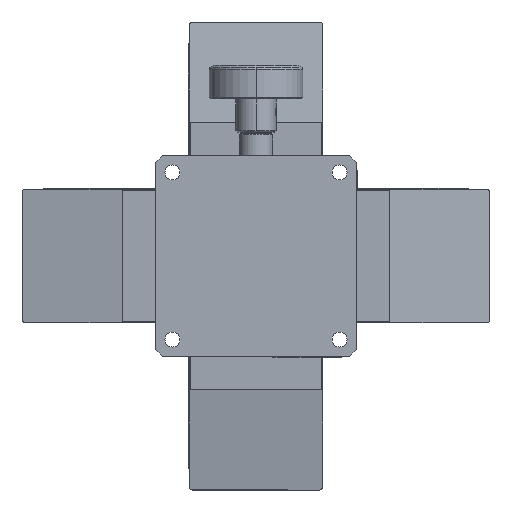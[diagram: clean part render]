
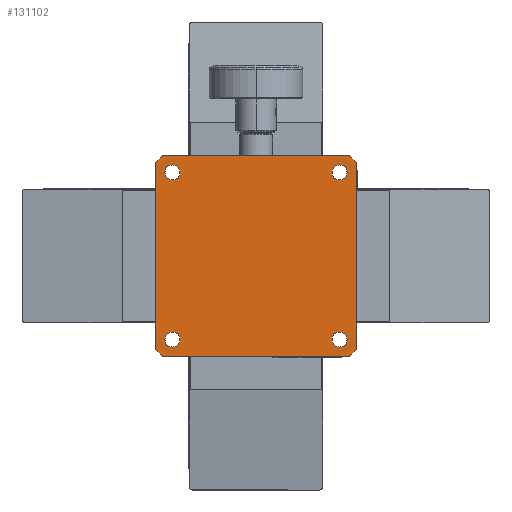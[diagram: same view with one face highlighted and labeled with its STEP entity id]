
A CAD part, front view. The second image highlights one B-rep face of the part: STEP entity #131102.
In plain terms, the highlighted planar face has unit normal (0, -1, 0).
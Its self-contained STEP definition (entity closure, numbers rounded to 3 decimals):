
#1004 = EDGE_CURVE ( 'NONE', #61729, #160091, #151450, .T. ) ;
#3056 = AXIS2_PLACEMENT_3D ( 'NONE', #110771, #26081, #124909 ) ;
#3378 = CARTESIAN_POINT ( 'NONE',  ( -59., 0., 1. ) ) ;
#3660 = VECTOR ( 'NONE', #151471, 1000. ) ;
#4253 = DIRECTION ( 'NONE',  ( 1., 0., 0. ) ) ;
#4795 = EDGE_CURVE ( 'NONE', #64956, #114945, #49212, .T. ) ;
#6221 = VECTOR ( 'NONE', #15594, 1000. ) ;
#7573 = CARTESIAN_POINT ( 'NONE',  ( 25., 0., -25. ) ) ;
#7974 = VERTEX_POINT ( 'NONE', #154163 ) ;
#8680 = DIRECTION ( 'NONE',  ( 0., 0., -1. ) ) ;
#10966 = DIRECTION ( 'NONE',  ( 0., 1., 0. ) ) ;
#12961 = DIRECTION ( 'NONE',  ( 0., 1., 0. ) ) ;
#13696 = CARTESIAN_POINT ( 'NONE',  ( 22.75, 0., 25. ) ) ;
#15594 = DIRECTION ( 'NONE',  ( -0.707, 0., 0.707 ) ) ;
#15877 = ORIENTED_EDGE ( 'NONE', *, *, #123139, .T. ) ;
#17002 = CARTESIAN_POINT ( 'NONE',  ( -27.25, 0., -25. ) ) ;
#20410 = VERTEX_POINT ( 'NONE', #107734 ) ;
#21798 = DIRECTION ( 'NONE',  ( 1., 0., 0. ) ) ;
#23829 = EDGE_CURVE ( 'NONE', #160091, #61729, #149153, .T. ) ;
#26081 = DIRECTION ( 'NONE',  ( 0., 1., 0. ) ) ;
#27094 = ORIENTED_EDGE ( 'NONE', *, *, #95487, .T. ) ;
#30714 = VERTEX_POINT ( 'NONE', #147978 ) ;
#31001 = EDGE_CURVE ( 'NONE', #131482, #56156, #114632, .T. ) ;
#31490 = ORIENTED_EDGE ( 'NONE', *, *, #1004, .T. ) ;
#32515 = FACE_BOUND ( 'NONE', #141232, .T. ) ;
#33800 = CARTESIAN_POINT ( 'NONE',  ( -22.75, 0., 25. ) ) ;
#34553 = CARTESIAN_POINT ( 'NONE',  ( 28., 0., 30. ) ) ;
#40001 = ORIENTED_EDGE ( 'NONE', *, *, #23829, .T. ) ;
#40343 = CIRCLE ( 'NONE', #104786, 2.25 ) ;
#40951 = ORIENTED_EDGE ( 'NONE', *, *, #100705, .T. ) ;
#42216 = CARTESIAN_POINT ( 'NONE',  ( 25., 0., 25. ) ) ;
#42920 = LINE ( 'NONE', #3378, #118100 ) ;
#43292 = AXIS2_PLACEMENT_3D ( 'NONE', #135686, #51020, #149923 ) ;
#43508 = EDGE_CURVE ( 'NONE', #114945, #64956, #76579, .T. ) ;
#46535 = DIRECTION ( 'NONE',  ( -1., 0., 0. ) ) ;
#49212 = CIRCLE ( 'NONE', #113928, 2.25 ) ;
#49875 = CARTESIAN_POINT ( 'NONE',  ( 30., 0., 28. ) ) ;
#50096 = LINE ( 'NONE', #179232, #3660 ) ;
#50709 = CARTESIAN_POINT ( 'NONE',  ( 30., 0., 30. ) ) ;
#50815 = LINE ( 'NONE', #95025, #84041 ) ;
#51020 = DIRECTION ( 'NONE',  ( 0., 1., 0. ) ) ;
#53439 = ORIENTED_EDGE ( 'NONE', *, *, #106642, .F. ) ;
#54318 = DIRECTION ( 'NONE',  ( 0., -1., 0. ) ) ;
#55807 = VECTOR ( 'NONE', #177271, 1000. ) ;
#56131 = EDGE_LOOP ( 'NONE', ( #72399, #15877, #53439, #73054, #151191, #69541, #175555, #169134 ) ) ;
#56156 = VERTEX_POINT ( 'NONE', #34553 ) ;
#56383 = DIRECTION ( 'NONE',  ( 1., 0., 0. ) ) ;
#57979 = DIRECTION ( 'NONE',  ( 0., 1., 0. ) ) ;
#58183 = CARTESIAN_POINT ( 'NONE',  ( -1., 0., 59. ) ) ;
#59636 = VERTEX_POINT ( 'NONE', #79182 ) ;
#59806 = CARTESIAN_POINT ( 'NONE',  ( 30., 0., -28. ) ) ;
#60234 = LINE ( 'NONE', #163058, #55807 ) ;
#60734 = LINE ( 'NONE', #131164, #169068 ) ;
#61729 = VERTEX_POINT ( 'NONE', #67985 ) ;
#63203 = CIRCLE ( 'NONE', #74501, 2.25 ) ;
#64826 = AXIS2_PLACEMENT_3D ( 'NONE', #95657, #10966, #109867 ) ;
#64956 = VERTEX_POINT ( 'NONE', #33800 ) ;
#67985 = CARTESIAN_POINT ( 'NONE',  ( 27.25, 0., -25. ) ) ;
#69211 = VERTEX_POINT ( 'NONE', #87535 ) ;
#69541 = ORIENTED_EDGE ( 'NONE', *, *, #70299, .T. ) ;
#70299 = EDGE_CURVE ( 'NONE', #69211, #100840, #50096, .T. ) ;
#70630 = EDGE_LOOP ( 'NONE', ( #31490, #40001 ) ) ;
#72399 = ORIENTED_EDGE ( 'NONE', *, *, #96882, .F. ) ;
#73054 = ORIENTED_EDGE ( 'NONE', *, *, #122092, .T. ) ;
#74501 = AXIS2_PLACEMENT_3D ( 'NONE', #97634, #12961, #111833 ) ;
#75675 = ORIENTED_EDGE ( 'NONE', *, *, #4795, .T. ) ;
#76579 = CIRCLE ( 'NONE', #64826, 2.25 ) ;
#79182 = CARTESIAN_POINT ( 'NONE',  ( -28., 0., 30. ) ) ;
#79572 = DIRECTION ( 'NONE',  ( 1., 0., 0. ) ) ;
#82868 = VERTEX_POINT ( 'NONE', #156942 ) ;
#84041 = VECTOR ( 'NONE', #179635, 1000. ) ;
#87535 = CARTESIAN_POINT ( 'NONE',  ( 28., 0., -30. ) ) ;
#88931 = DIRECTION ( 'NONE',  ( 0., 1., 0. ) ) ;
#92913 = CIRCLE ( 'NONE', #3056, 2.25 ) ;
#93172 = AXIS2_PLACEMENT_3D ( 'NONE', #142662, #57979, #156912 ) ;
#95025 = CARTESIAN_POINT ( 'NONE',  ( -30., 0., 30. ) ) ;
#95487 = EDGE_CURVE ( 'NONE', #175332, #107782, #40343, .T. ) ;
#95657 = CARTESIAN_POINT ( 'NONE',  ( -25., 0., 25. ) ) ;
#96370 = PLANE ( 'NONE',  #127788 ) ;
#96882 = EDGE_CURVE ( 'NONE', #59636, #56156, #101947, .T. ) ;
#97634 = CARTESIAN_POINT ( 'NONE',  ( -25., 0., -25. ) ) ;
#98701 = ORIENTED_EDGE ( 'NONE', *, *, #159937, .T. ) ;
#100486 = VECTOR ( 'NONE', #8680, 1000. ) ;
#100705 = EDGE_CURVE ( 'NONE', #7974, #101617, #63203, .T. ) ;
#100840 = VERTEX_POINT ( 'NONE', #59806 ) ;
#101523 = CARTESIAN_POINT ( 'NONE',  ( 27.25, 0., 25. ) ) ;
#101617 = VERTEX_POINT ( 'NONE', #17002 ) ;
#101947 = LINE ( 'NONE', #164191, #139465 ) ;
#103353 = FACE_OUTER_BOUND ( 'NONE', #56131, .T. ) ;
#104333 = AXIS2_PLACEMENT_3D ( 'NONE', #7573, #106485, #21798 ) ;
#104786 = AXIS2_PLACEMENT_3D ( 'NONE', #42216, #141033, #56383 ) ;
#104898 = LINE ( 'NONE', #50709, #100486 ) ;
#106485 = DIRECTION ( 'NONE',  ( 0., 1., 0. ) ) ;
#106642 = EDGE_CURVE ( 'NONE', #20410, #30714, #50815, .T. ) ;
#107734 = CARTESIAN_POINT ( 'NONE',  ( -30., 0., -28. ) ) ;
#107748 = FACE_BOUND ( 'NONE', #136810, .T. ) ;
#107782 = VERTEX_POINT ( 'NONE', #13696 ) ;
#109867 = DIRECTION ( 'NONE',  ( 1., 0., 0. ) ) ;
#110771 = CARTESIAN_POINT ( 'NONE',  ( -25., 0., -25. ) ) ;
#111833 = DIRECTION ( 'NONE',  ( 1., 0., 0. ) ) ;
#113928 = AXIS2_PLACEMENT_3D ( 'NONE', #173533, #88931, #4253 ) ;
#114632 = LINE ( 'NONE', #58183, #6221 ) ;
#114945 = VERTEX_POINT ( 'NONE', #180210 ) ;
#116486 = DIRECTION ( 'NONE',  ( 0.707, 0., -0.707 ) ) ;
#118100 = VECTOR ( 'NONE', #116486, 1000. ) ;
#122092 = EDGE_CURVE ( 'NONE', #20410, #82868, #42920, .T. ) ;
#123139 = EDGE_CURVE ( 'NONE', #59636, #30714, #60234, .T. ) ;
#124909 = DIRECTION ( 'NONE',  ( 1., 0., 0. ) ) ;
#125030 = EDGE_CURVE ( 'NONE', #101617, #7974, #92913, .T. ) ;
#127788 = AXIS2_PLACEMENT_3D ( 'NONE', #138976, #54318, #153274 ) ;
#128543 = CIRCLE ( 'NONE', #93172, 2.25 ) ;
#131102 = ADVANCED_FACE ( 'NONE', ( #178467, #32515, #107748, #140878, #103353 ), #96370, .T. ) ;
#131164 = CARTESIAN_POINT ( 'NONE',  ( 30., 0., -30. ) ) ;
#131482 = VERTEX_POINT ( 'NONE', #49875 ) ;
#131878 = EDGE_LOOP ( 'NONE', ( #27094, #98701 ) ) ;
#133204 = EDGE_CURVE ( 'NONE', #69211, #82868, #60734, .T. ) ;
#135686 = CARTESIAN_POINT ( 'NONE',  ( 25., 0., -25. ) ) ;
#136810 = EDGE_LOOP ( 'NONE', ( #40951, #160946 ) ) ;
#138976 = CARTESIAN_POINT ( 'NONE',  ( -30., 0., 30. ) ) ;
#139465 = VECTOR ( 'NONE', #79572, 1000. ) ;
#140878 = FACE_BOUND ( 'NONE', #70630, .T. ) ;
#141033 = DIRECTION ( 'NONE',  ( 0., 1., 0. ) ) ;
#141232 = EDGE_LOOP ( 'NONE', ( #75675, #180583 ) ) ;
#142662 = CARTESIAN_POINT ( 'NONE',  ( 25., 0., 25. ) ) ;
#147978 = CARTESIAN_POINT ( 'NONE',  ( -30., 0., 28. ) ) ;
#148370 = EDGE_CURVE ( 'NONE', #131482, #100840, #104898, .T. ) ;
#149153 = CIRCLE ( 'NONE', #43292, 2.25 ) ;
#149923 = DIRECTION ( 'NONE',  ( 1., 0., 0. ) ) ;
#151191 = ORIENTED_EDGE ( 'NONE', *, *, #133204, .F. ) ;
#151450 = CIRCLE ( 'NONE', #104333, 2.25 ) ;
#151471 = DIRECTION ( 'NONE',  ( 0.707, 0., 0.707 ) ) ;
#153274 = DIRECTION ( 'NONE',  ( -1., 0., 0. ) ) ;
#154163 = CARTESIAN_POINT ( 'NONE',  ( -22.75, 0., -25. ) ) ;
#156912 = DIRECTION ( 'NONE',  ( 1., 0., 0. ) ) ;
#156942 = CARTESIAN_POINT ( 'NONE',  ( -28., 0., -30. ) ) ;
#159937 = EDGE_CURVE ( 'NONE', #107782, #175332, #128543, .T. ) ;
#160091 = VERTEX_POINT ( 'NONE', #180866 ) ;
#160946 = ORIENTED_EDGE ( 'NONE', *, *, #125030, .T. ) ;
#163058 = CARTESIAN_POINT ( 'NONE',  ( -29., 0., 29. ) ) ;
#164191 = CARTESIAN_POINT ( 'NONE',  ( 30., 0., 30. ) ) ;
#169068 = VECTOR ( 'NONE', #46535, 1000. ) ;
#169134 = ORIENTED_EDGE ( 'NONE', *, *, #31001, .T. ) ;
#173533 = CARTESIAN_POINT ( 'NONE',  ( -25., 0., 25. ) ) ;
#175332 = VERTEX_POINT ( 'NONE', #101523 ) ;
#175555 = ORIENTED_EDGE ( 'NONE', *, *, #148370, .F. ) ;
#177271 = DIRECTION ( 'NONE',  ( -0.707, 0., -0.707 ) ) ;
#178467 = FACE_BOUND ( 'NONE', #131878, .T. ) ;
#179232 = CARTESIAN_POINT ( 'NONE',  ( 29., 0., -29. ) ) ;
#179635 = DIRECTION ( 'NONE',  ( 0., 0., 1. ) ) ;
#180210 = CARTESIAN_POINT ( 'NONE',  ( -27.25, 0., 25. ) ) ;
#180583 = ORIENTED_EDGE ( 'NONE', *, *, #43508, .T. ) ;
#180866 = CARTESIAN_POINT ( 'NONE',  ( 22.75, 0., -25. ) ) ;
